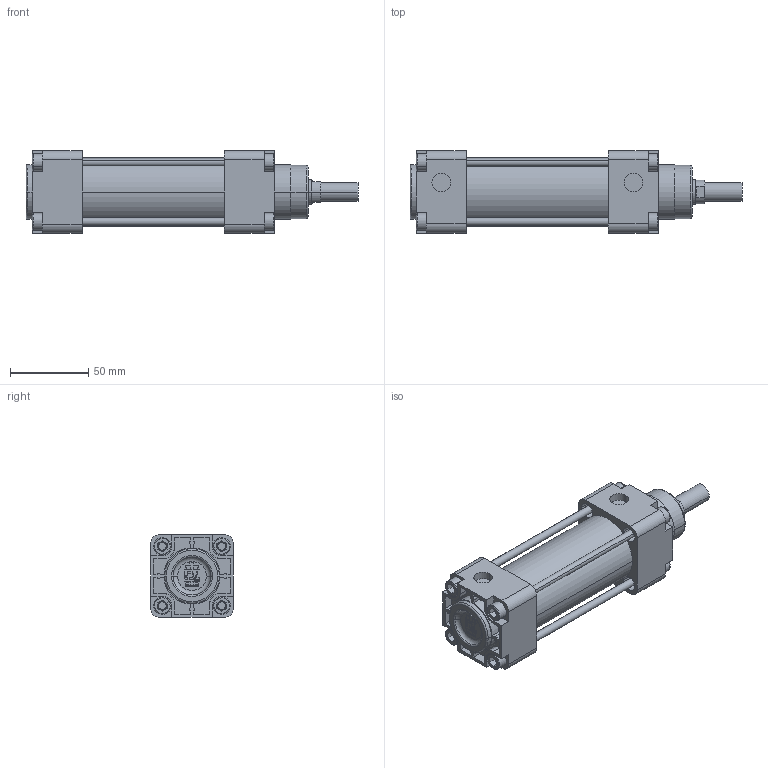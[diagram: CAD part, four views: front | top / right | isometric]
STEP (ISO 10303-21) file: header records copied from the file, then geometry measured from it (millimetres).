
FILE_DESCRIPTION(('CATIA V5 STEP Exchange'),'2;1');
FILE_NAME('D:\stp file for catalog\PNC\40\PNC 40-16-50.stp','2015-05-25T08:19:41+00:00',('none'),('none'),'Version 5-6 Release 2012','CATIA V5 STEP AP203','none');
FILE_SCHEMA(('CONFIG_CONTROL_DESIGN'));
Length unit declared in the file: millimetre
Products named in the file (1): PNC 40-16-50-00
Assembly tree (2 placements, depth 2):
  PNC 40-16-50-00
    #58
    #14775
Bounding box: 212.5 x 53 x 53 mm (x, y, z)
Volume: 275816.9 mm3; surface area: 92471 mm2
Topology: 2 solids, 2 shells, 562 faces, 1417 edges, 920 vertices
Faces by surface type: plane 352, cylinder 158, torus 26, cone 18, extrusion 8
Entity records: 15204 total; most frequent: CARTESIAN_POINT 2889, ORIENTED_EDGE 2834, DIRECTION 1905, EDGE_CURVE 1417, VERTEX_POINT 920, VECTOR 877, LINE 869, AXIS2_PLACEMENT_3D 764
